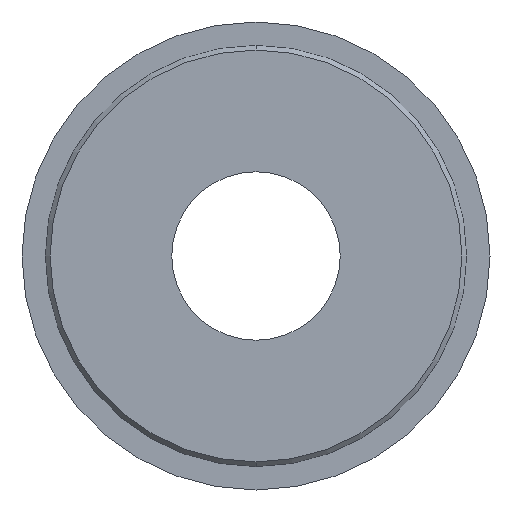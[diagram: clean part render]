
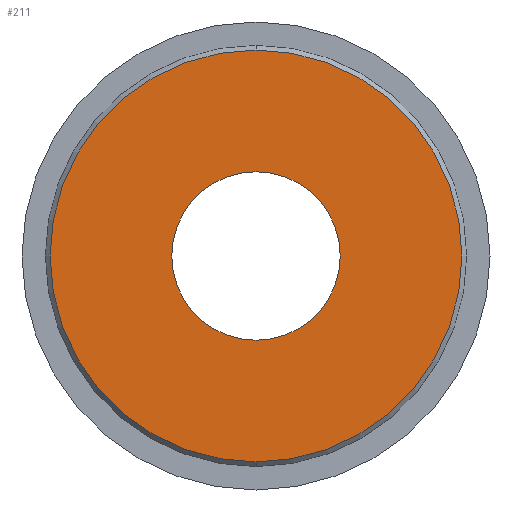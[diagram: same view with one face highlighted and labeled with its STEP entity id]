
A CAD part, front view. The second image highlights one B-rep face of the part: STEP entity #211.
In plain terms, the highlighted planar face has unit normal (0, -1, 0).
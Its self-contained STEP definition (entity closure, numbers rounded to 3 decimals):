
#2 = ORIENTED_EDGE ( 'NONE', *, *, #438, .T. ) ;
#14 = DIRECTION ( 'NONE',  ( 0., 0., 1. ) ) ;
#19 = DIRECTION ( 'NONE',  ( 0., 0., 1. ) ) ;
#32 = CIRCLE ( 'NONE', #147, 18. ) ;
#33 = CARTESIAN_POINT ( 'NONE',  ( 0., 0., 44. ) ) ;
#46 = EDGE_LOOP ( 'NONE', ( #254, #385 ) ) ;
#55 = AXIS2_PLACEMENT_3D ( 'NONE', #430, #105, #267 ) ;
#69 = DIRECTION ( 'NONE',  ( 0., 0., -1. ) ) ;
#71 = VERTEX_POINT ( 'NONE', #300 ) ;
#85 = DIRECTION ( 'NONE',  ( 0., -1., 0. ) ) ;
#105 = DIRECTION ( 'NONE',  ( 0., -1., 0. ) ) ;
#112 = EDGE_CURVE ( 'NONE', #114, #189, #259, .T. ) ;
#114 = VERTEX_POINT ( 'NONE', #433 ) ;
#121 = CARTESIAN_POINT ( 'NONE',  ( 0., 0., 0. ) ) ;
#132 = AXIS2_PLACEMENT_3D ( 'NONE', #121, #85, #14 ) ;
#133 = DIRECTION ( 'NONE',  ( 0., 1., 0. ) ) ;
#147 = AXIS2_PLACEMENT_3D ( 'NONE', #427, #382, #69 ) ;
#151 = CIRCLE ( 'NONE', #198, 44. ) ;
#185 = AXIS2_PLACEMENT_3D ( 'NONE', #252, #133, #19 ) ;
#189 = VERTEX_POINT ( 'NONE', #33 ) ;
#198 = AXIS2_PLACEMENT_3D ( 'NONE', #335, #296, #402 ) ;
#211 = ADVANCED_FACE ( 'NONE', ( #410, #288 ), #313, .F. ) ;
#251 = VERTEX_POINT ( 'NONE', #399 ) ;
#252 = CARTESIAN_POINT ( 'NONE',  ( -18., 0., 0. ) ) ;
#254 = ORIENTED_EDGE ( 'NONE', *, *, #400, .F. ) ;
#259 = CIRCLE ( 'NONE', #132, 44. ) ;
#267 = DIRECTION ( 'NONE',  ( 0., 0., -1. ) ) ;
#288 = FACE_BOUND ( 'NONE', #46, .T. ) ;
#296 = DIRECTION ( 'NONE',  ( 0., -1., 0. ) ) ;
#300 = CARTESIAN_POINT ( 'NONE',  ( 0., 0., 18. ) ) ;
#307 = CIRCLE ( 'NONE', #55, 18. ) ;
#313 = PLANE ( 'NONE',  #185 ) ;
#317 = EDGE_LOOP ( 'NONE', ( #2, #437 ) ) ;
#335 = CARTESIAN_POINT ( 'NONE',  ( 0., 0., 0. ) ) ;
#382 = DIRECTION ( 'NONE',  ( 0., -1., 0. ) ) ;
#385 = ORIENTED_EDGE ( 'NONE', *, *, #436, .F. ) ;
#399 = CARTESIAN_POINT ( 'NONE',  ( 0., 0., -18. ) ) ;
#400 = EDGE_CURVE ( 'NONE', #251, #71, #32, .T. ) ;
#402 = DIRECTION ( 'NONE',  ( 0., 0., 1. ) ) ;
#410 = FACE_OUTER_BOUND ( 'NONE', #317, .T. ) ;
#427 = CARTESIAN_POINT ( 'NONE',  ( 0., 0., 0. ) ) ;
#430 = CARTESIAN_POINT ( 'NONE',  ( 0., 0., 0. ) ) ;
#433 = CARTESIAN_POINT ( 'NONE',  ( 0., 0., -44. ) ) ;
#436 = EDGE_CURVE ( 'NONE', #71, #251, #307, .T. ) ;
#437 = ORIENTED_EDGE ( 'NONE', *, *, #112, .T. ) ;
#438 = EDGE_CURVE ( 'NONE', #189, #114, #151, .T. ) ;
